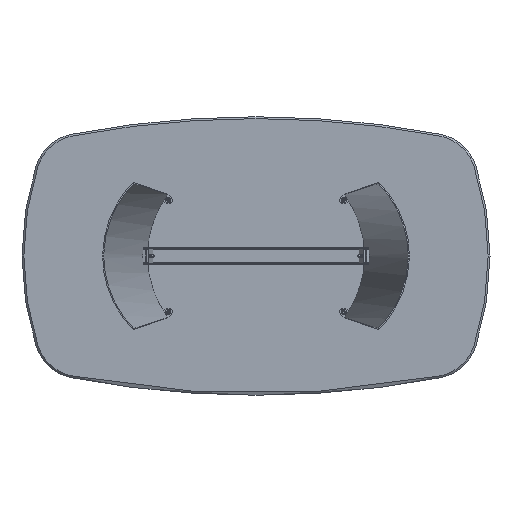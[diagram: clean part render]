
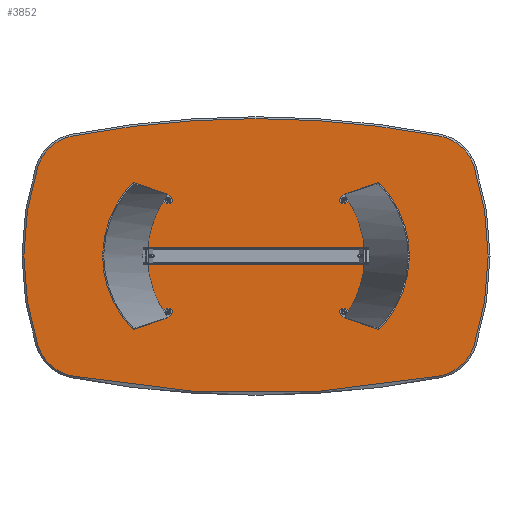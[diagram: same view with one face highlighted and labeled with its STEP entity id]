
A CAD part, front view. The second image highlights one B-rep face of the part: STEP entity #3852.
In plain terms, the highlighted planar face has unit normal (0, -1, 0).
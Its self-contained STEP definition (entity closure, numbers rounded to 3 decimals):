
#41 = CIRCLE ( 'NONE', #3511, 1252. ) ;
#252 = EDGE_CURVE ( 'NONE', #2360, #2612, #958, .T. ) ;
#282 = CARTESIAN_POINT ( 'NONE',  ( -749.201, 0., 324.211 ) ) ;
#344 = VERTEX_POINT ( 'NONE', #6132 ) ;
#400 = CARTESIAN_POINT ( 'NONE',  ( -785.163, 0., 512.813 ) ) ;
#586 = CARTESIAN_POINT ( 'NONE',  ( 0., 0., 3605. ) ) ;
#651 = ORIENTED_EDGE ( 'NONE', *, *, #6243, .T. ) ;
#730 = ORIENTED_EDGE ( 'NONE', *, *, #1770, .T. ) ;
#799 = VERTEX_POINT ( 'NONE', #905 ) ;
#905 = CARTESIAN_POINT ( 'NONE',  ( 785.163, 0., -512.813 ) ) ;
#958 = CIRCLE ( 'NONE', #9596, 1252. ) ;
#1366 = DIRECTION ( 'NONE',  ( 0., 0., 1. ) ) ;
#1413 = VERTEX_POINT ( 'NONE', #5373 ) ;
#1426 = ORIENTED_EDGE ( 'NONE', *, *, #252, .T. ) ;
#1432 = DIRECTION ( 'NONE',  ( 0., -1., 0. ) ) ;
#1770 = EDGE_CURVE ( 'NONE', #7813, #9575, #2715, .T. ) ;
#1782 = DIRECTION ( 'NONE',  ( 0., -1., 0. ) ) ;
#1939 = AXIS2_PLACEMENT_3D ( 'NONE', #5651, #4723, #8542 ) ;
#2005 = CIRCLE ( 'NONE', #2485, 192. ) ;
#2129 = CARTESIAN_POINT ( 'NONE',  ( -130., 0., 1802.5 ) ) ;
#2181 = PLANE ( 'NONE',  #5198 ) ;
#2238 = EDGE_LOOP ( 'NONE', ( #4040, #651, #2684, #1426, #3584, #8794, #730, #8344, #5753 ) ) ;
#2360 = VERTEX_POINT ( 'NONE', #3103 ) ;
#2485 = AXIS2_PLACEMENT_3D ( 'NONE', #5046, #5539, #3380 ) ;
#2560 = VERTEX_POINT ( 'NONE', #9098 ) ;
#2574 = AXIS2_PLACEMENT_3D ( 'NONE', #282, #2600, #7805 ) ;
#2600 = DIRECTION ( 'NONE',  ( 0., -1., 0. ) ) ;
#2612 = VERTEX_POINT ( 'NONE', #4596 ) ;
#2675 = AXIS2_PLACEMENT_3D ( 'NONE', #3258, #6449, #7034 ) ;
#2684 = ORIENTED_EDGE ( 'NONE', *, *, #4572, .T. ) ;
#2715 = CIRCLE ( 'NONE', #4612, 4192. ) ;
#2850 = CARTESIAN_POINT ( 'NONE',  ( -260., 0., 0. ) ) ;
#2925 = DIRECTION ( 'NONE',  ( 0., 0., 1. ) ) ;
#3103 = CARTESIAN_POINT ( 'NONE',  ( 932., 0., -382.936 ) ) ;
#3205 = CIRCLE ( 'NONE', #1939, 4192. ) ;
#3258 = CARTESIAN_POINT ( 'NONE',  ( 749.201, 0., 324.211 ) ) ;
#3293 = EDGE_CURVE ( 'NONE', #9575, #2560, #4162, .T. ) ;
#3380 = DIRECTION ( 'NONE',  ( 0., 0., 1. ) ) ;
#3383 = EDGE_CURVE ( 'NONE', #344, #7813, #3205, .T. ) ;
#3511 = AXIS2_PLACEMENT_3D ( 'NONE', #6775, #7654, #6045 ) ;
#3584 = ORIENTED_EDGE ( 'NONE', *, *, #4331, .T. ) ;
#3597 = DIRECTION ( 'NONE',  ( 0., -1., 0. ) ) ;
#3852 = ADVANCED_FACE ( 'NONE', ( #6559 ), #2181, .F. ) ;
#4020 = CARTESIAN_POINT ( 'NONE',  ( 749.201, 0., -324.211 ) ) ;
#4040 = ORIENTED_EDGE ( 'NONE', *, *, #4932, .T. ) ;
#4162 = CIRCLE ( 'NONE', #2574, 192. ) ;
#4310 = DIRECTION ( 'NONE',  ( 0., 1., 0. ) ) ;
#4331 = EDGE_CURVE ( 'NONE', #2612, #344, #6910, .T. ) ;
#4572 = EDGE_CURVE ( 'NONE', #799, #2360, #6254, .T. ) ;
#4596 = CARTESIAN_POINT ( 'NONE',  ( 932., 0., 382.936 ) ) ;
#4612 = AXIS2_PLACEMENT_3D ( 'NONE', #9589, #1432, #5709 ) ;
#4723 = DIRECTION ( 'NONE',  ( 0., -1., 0. ) ) ;
#4932 = EDGE_CURVE ( 'NONE', #1413, #6309, #2005, .T. ) ;
#5046 = CARTESIAN_POINT ( 'NONE',  ( -749.201, 0., -324.211 ) ) ;
#5198 = AXIS2_PLACEMENT_3D ( 'NONE', #2129, #4310, #2925 ) ;
#5216 = DIRECTION ( 'NONE',  ( 0., 0., 1. ) ) ;
#5252 = AXIS2_PLACEMENT_3D ( 'NONE', #586, #3597, #5216 ) ;
#5373 = CARTESIAN_POINT ( 'NONE',  ( -932., 0., -382.936 ) ) ;
#5539 = DIRECTION ( 'NONE',  ( 0., -1., 0. ) ) ;
#5651 = CARTESIAN_POINT ( 'NONE',  ( 0., 0., -3605. ) ) ;
#5709 = DIRECTION ( 'NONE',  ( 0., 0., 1. ) ) ;
#5753 = ORIENTED_EDGE ( 'NONE', *, *, #7733, .T. ) ;
#6045 = DIRECTION ( 'NONE',  ( 0., 0., 1. ) ) ;
#6132 = CARTESIAN_POINT ( 'NONE',  ( 785.163, 0., 512.813 ) ) ;
#6243 = EDGE_CURVE ( 'NONE', #6309, #799, #6334, .T. ) ;
#6254 = CIRCLE ( 'NONE', #6408, 192. ) ;
#6309 = VERTEX_POINT ( 'NONE', #6873 ) ;
#6334 = CIRCLE ( 'NONE', #5252, 4192. ) ;
#6408 = AXIS2_PLACEMENT_3D ( 'NONE', #4020, #1782, #7829 ) ;
#6449 = DIRECTION ( 'NONE',  ( 0., -1., 0. ) ) ;
#6559 = FACE_OUTER_BOUND ( 'NONE', #2238, .T. ) ;
#6775 = CARTESIAN_POINT ( 'NONE',  ( 260., 0., 0. ) ) ;
#6827 = CARTESIAN_POINT ( 'NONE',  ( 0., 0., 587. ) ) ;
#6873 = CARTESIAN_POINT ( 'NONE',  ( -785.163, 0., -512.813 ) ) ;
#6910 = CIRCLE ( 'NONE', #2675, 192. ) ;
#7034 = DIRECTION ( 'NONE',  ( 0., 0., 1. ) ) ;
#7654 = DIRECTION ( 'NONE',  ( 0., -1., 0. ) ) ;
#7733 = EDGE_CURVE ( 'NONE', #2560, #1413, #41, .T. ) ;
#7805 = DIRECTION ( 'NONE',  ( 0., 0., 1. ) ) ;
#7813 = VERTEX_POINT ( 'NONE', #6827 ) ;
#7829 = DIRECTION ( 'NONE',  ( 0., 0., 1. ) ) ;
#8344 = ORIENTED_EDGE ( 'NONE', *, *, #3293, .T. ) ;
#8542 = DIRECTION ( 'NONE',  ( 0., 0., 1. ) ) ;
#8794 = ORIENTED_EDGE ( 'NONE', *, *, #3383, .T. ) ;
#9098 = CARTESIAN_POINT ( 'NONE',  ( -932., 0., 382.936 ) ) ;
#9575 = VERTEX_POINT ( 'NONE', #400 ) ;
#9589 = CARTESIAN_POINT ( 'NONE',  ( 0., 0., -3605. ) ) ;
#9596 = AXIS2_PLACEMENT_3D ( 'NONE', #2850, #9673, #1366 ) ;
#9673 = DIRECTION ( 'NONE',  ( 0., -1., 0. ) ) ;
